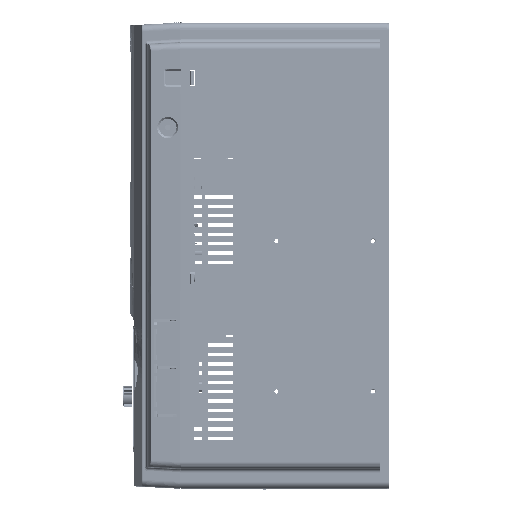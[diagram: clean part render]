
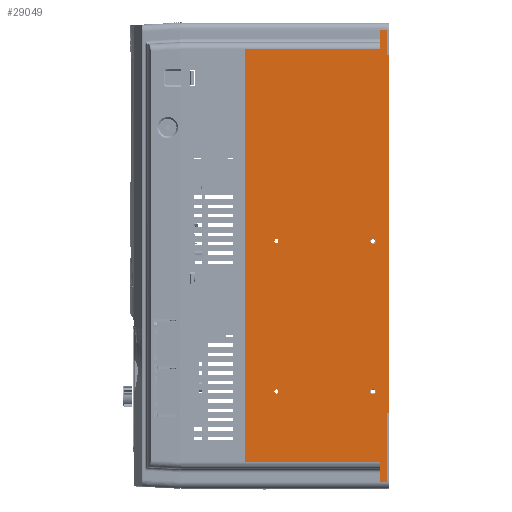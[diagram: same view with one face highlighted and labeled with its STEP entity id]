
A CAD part, left-side view. The second image highlights one B-rep face of the part: STEP entity #29049.
In plain terms, the highlighted planar face has unit normal (-1, 0, 0).
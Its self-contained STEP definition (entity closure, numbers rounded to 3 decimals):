
#19=DIRECTION('',(0.,0.,1.));
#20=VECTOR('',#19,59.05);
#21=CARTESIAN_POINT('',(-125.,-61.,-194.));
#22=LINE('',#21,#20);
#4480=DIRECTION('',(0.,0.,1.));
#4481=VECTOR('',#4480,21.45);
#4482=CARTESIAN_POINT('',(-125.,-61.,172.55));
#4483=LINE('',#4482,#4481);
#6821=DIRECTION('',(0.,0.,-1.));
#6822=VECTOR('',#6821,17.);
#6823=CARTESIAN_POINT('',(-125.,-55.,194.));
#6824=LINE('',#6823,#6822);
#6876=DIRECTION('',(0.,1.,0.));
#6877=VECTOR('',#6876,6.);
#6878=CARTESIAN_POINT('',(-125.,-61.,194.));
#6879=LINE('',#6878,#6877);
#6880=DIRECTION('',(0.,0.,-1.));
#6881=VECTOR('',#6880,307.);
#6882=CARTESIAN_POINT('',(-125.,-62.3,172.05));
#6883=LINE('',#6882,#6881);
#6884=DIRECTION('',(0.,1.,0.));
#6885=VECTOR('',#6884,1.3);
#6886=CARTESIAN_POINT('',(-125.,-62.3,-134.95));
#6887=LINE('',#6886,#6885);
#6888=DIRECTION('',(0.,0.,1.));
#6889=VECTOR('',#6888,354.);
#6890=CARTESIAN_POINT('',(-125.,61.,-177.));
#6891=LINE('',#6890,#6889);
#6892=DIRECTION('',(0.,-1.,0.));
#6893=VECTOR('',#6892,0.8);
#6894=CARTESIAN_POINT('',(-125.,-61.,172.55));
#6895=LINE('',#6894,#6893);
#6896=DIRECTION('',(0.,-0.707,-0.707));
#6897=VECTOR('',#6896,0.707);
#6898=CARTESIAN_POINT('',(-125.,-61.8,172.55));
#6899=LINE('',#6898,#6897);
#6900=CARTESIAN_POINT('',(-125.,34.2,12.5));
#6901=DIRECTION('',(-1.,0.,0.));
#6902=DIRECTION('',(0.,0.,-1.));
#6903=AXIS2_PLACEMENT_3D('',#6900,#6901,#6902);
#6905=CARTESIAN_POINT('',(-125.,34.2,12.5));
#6906=DIRECTION('',(-1.,0.,0.));
#6907=DIRECTION('',(0.,0.,1.));
#6908=AXIS2_PLACEMENT_3D('',#6905,#6906,#6907);
#6910=CARTESIAN_POINT('',(-125.,-48.8,-116.5));
#6911=DIRECTION('',(-1.,0.,0.));
#6912=DIRECTION('',(0.,0.,1.));
#6913=AXIS2_PLACEMENT_3D('',#6910,#6911,#6912);
#6915=CARTESIAN_POINT('',(-125.,-48.8,-116.5));
#6916=DIRECTION('',(-1.,0.,0.));
#6917=DIRECTION('',(0.,0.,-1.));
#6918=AXIS2_PLACEMENT_3D('',#6915,#6916,#6917);
#6920=CARTESIAN_POINT('',(-125.,-48.8,12.5));
#6921=DIRECTION('',(-1.,0.,0.));
#6922=DIRECTION('',(0.,0.,1.));
#6923=AXIS2_PLACEMENT_3D('',#6920,#6921,#6922);
#6925=CARTESIAN_POINT('',(-125.,-48.8,12.5));
#6926=DIRECTION('',(-1.,0.,0.));
#6927=DIRECTION('',(0.,0.,-1.));
#6928=AXIS2_PLACEMENT_3D('',#6925,#6926,#6927);
#6930=CARTESIAN_POINT('',(-125.,34.2,-116.5));
#6931=DIRECTION('',(-1.,0.,0.));
#6932=DIRECTION('',(0.,0.,-1.));
#6933=AXIS2_PLACEMENT_3D('',#6930,#6931,#6932);
#6935=CARTESIAN_POINT('',(-125.,34.2,-116.5));
#6936=DIRECTION('',(-1.,0.,0.));
#6937=DIRECTION('',(0.,0.,1.));
#6938=AXIS2_PLACEMENT_3D('',#6935,#6936,#6937);
#9179=DIRECTION('',(0.,-1.,0.));
#9180=VECTOR('',#9179,6.);
#9181=CARTESIAN_POINT('',(-125.,-55.,-194.));
#9182=LINE('',#9181,#9180);
#9207=DIRECTION('',(0.,0.,-1.));
#9208=VECTOR('',#9207,17.);
#9209=CARTESIAN_POINT('',(-125.,-55.,-177.));
#9210=LINE('',#9209,#9208);
#9253=DIRECTION('',(0.,-1.,0.));
#9254=VECTOR('',#9253,116.);
#9255=CARTESIAN_POINT('',(-125.,61.,-177.));
#9256=LINE('',#9255,#9254);
#9269=DIRECTION('',(0.,1.,0.));
#9270=VECTOR('',#9269,116.);
#9271=CARTESIAN_POINT('',(-125.,-55.,177.));
#9272=LINE('',#9271,#9270);
#18479=CARTESIAN_POINT('',(-125.,-61.,-194.));
#18480=VERTEX_POINT('',#18479);
#18481=CARTESIAN_POINT('',(-125.,-61.,-134.95));
#18482=VERTEX_POINT('',#18481);
#20590=CARTESIAN_POINT('',(-125.,-61.,172.55));
#20591=VERTEX_POINT('',#20590);
#20592=CARTESIAN_POINT('',(-125.,-61.,194.));
#20593=VERTEX_POINT('',#20592);
#21404=CARTESIAN_POINT('',(-125.,61.,177.));
#21405=VERTEX_POINT('',#21404);
#21406=CARTESIAN_POINT('',(-125.,61.,-177.));
#21407=VERTEX_POINT('',#21406);
#21498=CARTESIAN_POINT('',(-125.,-55.,194.));
#21499=VERTEX_POINT('',#21498);
#21500=CARTESIAN_POINT('',(-125.,-55.,177.));
#21501=VERTEX_POINT('',#21500);
#21506=CARTESIAN_POINT('',(-125.,-62.3,172.05));
#21507=CARTESIAN_POINT('',(-125.,-62.3,-134.95));
#21508=VERTEX_POINT('',#21506);
#21509=VERTEX_POINT('',#21507);
#21510=CARTESIAN_POINT('',(-125.,-55.,-194.));
#21511=VERTEX_POINT('',#21510);
#21512=CARTESIAN_POINT('',(-125.,-55.,-177.));
#21513=VERTEX_POINT('',#21512);
#21514=CARTESIAN_POINT('',(-125.,-61.8,172.55));
#21515=VERTEX_POINT('',#21514);
#21516=CARTESIAN_POINT('',(-125.,34.2,10.75));
#21517=CARTESIAN_POINT('',(-125.,34.2,14.25));
#21518=VERTEX_POINT('',#21516);
#21519=VERTEX_POINT('',#21517);
#21520=CARTESIAN_POINT('',(-125.,-48.8,-114.));
#21521=CARTESIAN_POINT('',(-125.,-48.8,-119.));
#21522=VERTEX_POINT('',#21520);
#21523=VERTEX_POINT('',#21521);
#21524=CARTESIAN_POINT('',(-125.,-48.8,15.));
#21525=CARTESIAN_POINT('',(-125.,-48.8,10.));
#21526=VERTEX_POINT('',#21524);
#21527=VERTEX_POINT('',#21525);
#21528=CARTESIAN_POINT('',(-125.,34.2,-118.25));
#21529=CARTESIAN_POINT('',(-125.,34.2,-114.75));
#21530=VERTEX_POINT('',#21528);
#21531=VERTEX_POINT('',#21529);
#28997=CARTESIAN_POINT('',(-125.,-61.,-200.));
#28998=DIRECTION('',(-1.,0.,0.));
#28999=DIRECTION('',(0.,0.,1.));
#29000=AXIS2_PLACEMENT_3D('',#28997,#28998,#28999);
#29001=PLANE('',#29000);
#29003=ORIENTED_EDGE('',*,*,#29002,.T.);
#29005=ORIENTED_EDGE('',*,*,#29004,.T.);
#29006=ORIENTED_EDGE('',*,*,#23512,.F.);
#29008=ORIENTED_EDGE('',*,*,#29007,.F.);
#29010=ORIENTED_EDGE('',*,*,#29009,.F.);
#29012=ORIENTED_EDGE('',*,*,#29011,.F.);
#29013=ORIENTED_EDGE('',*,*,#28767,.T.);
#29015=ORIENTED_EDGE('',*,*,#29014,.F.);
#29016=ORIENTED_EDGE('',*,*,#28903,.F.);
#29017=ORIENTED_EDGE('',*,*,#28991,.F.);
#29018=ORIENTED_EDGE('',*,*,#27285,.F.);
#29020=ORIENTED_EDGE('',*,*,#29019,.T.);
#29022=ORIENTED_EDGE('',*,*,#29021,.T.);
#29023=EDGE_LOOP('',(#29003,#29005,#29006,#29008,#29010,#29012,#29013,#29015,
#29016,#29017,#29018,#29020,#29022));
#29024=FACE_OUTER_BOUND('',#29023,.F.);
#29026=ORIENTED_EDGE('',*,*,#29025,.T.);
#29028=ORIENTED_EDGE('',*,*,#29027,.T.);
#29029=EDGE_LOOP('',(#29026,#29028));
#29030=FACE_BOUND('',#29029,.F.);
#29032=ORIENTED_EDGE('',*,*,#29031,.T.);
#29034=ORIENTED_EDGE('',*,*,#29033,.T.);
#29035=EDGE_LOOP('',(#29032,#29034));
#29036=FACE_BOUND('',#29035,.F.);
#29038=ORIENTED_EDGE('',*,*,#29037,.T.);
#29040=ORIENTED_EDGE('',*,*,#29039,.T.);
#29041=EDGE_LOOP('',(#29038,#29040));
#29042=FACE_BOUND('',#29041,.F.);
#29044=ORIENTED_EDGE('',*,*,#29043,.T.);
#29046=ORIENTED_EDGE('',*,*,#29045,.T.);
#29047=EDGE_LOOP('',(#29044,#29046));
#29048=FACE_BOUND('',#29047,.F.);
#29049=ADVANCED_FACE('',(#29024,#29030,#29036,#29042,#29048),#29001,.T.);
#6904=CIRCLE('',#6903,1.75);
#6909=CIRCLE('',#6908,1.75);
#6914=CIRCLE('',#6913,2.5);
#6919=CIRCLE('',#6918,2.5);
#6924=CIRCLE('',#6923,2.5);
#6929=CIRCLE('',#6928,2.5);
#6934=CIRCLE('',#6933,1.75);
#6939=CIRCLE('',#6938,1.75);
#23512=EDGE_CURVE('',#18480,#18482,#22,.T.);
#27285=EDGE_CURVE('',#20591,#20593,#4483,.T.);
#28767=EDGE_CURVE('',#21407,#21405,#6891,.T.);
#28903=EDGE_CURVE('',#21499,#21501,#6824,.T.);
#28991=EDGE_CURVE('',#20593,#21499,#6879,.T.);
#29002=EDGE_CURVE('',#21508,#21509,#6883,.T.);
#29004=EDGE_CURVE('',#21509,#18482,#6887,.T.);
#29007=EDGE_CURVE('',#21511,#18480,#9182,.T.);
#29009=EDGE_CURVE('',#21513,#21511,#9210,.T.);
#29011=EDGE_CURVE('',#21407,#21513,#9256,.T.);
#29014=EDGE_CURVE('',#21501,#21405,#9272,.T.);
#29019=EDGE_CURVE('',#20591,#21515,#6895,.T.);
#29021=EDGE_CURVE('',#21515,#21508,#6899,.T.);
#29025=EDGE_CURVE('',#21518,#21519,#6904,.T.);
#29027=EDGE_CURVE('',#21519,#21518,#6909,.T.);
#29031=EDGE_CURVE('',#21522,#21523,#6914,.T.);
#29033=EDGE_CURVE('',#21523,#21522,#6919,.T.);
#29037=EDGE_CURVE('',#21526,#21527,#6924,.T.);
#29039=EDGE_CURVE('',#21527,#21526,#6929,.T.);
#29043=EDGE_CURVE('',#21530,#21531,#6934,.T.);
#29045=EDGE_CURVE('',#21531,#21530,#6939,.T.);
